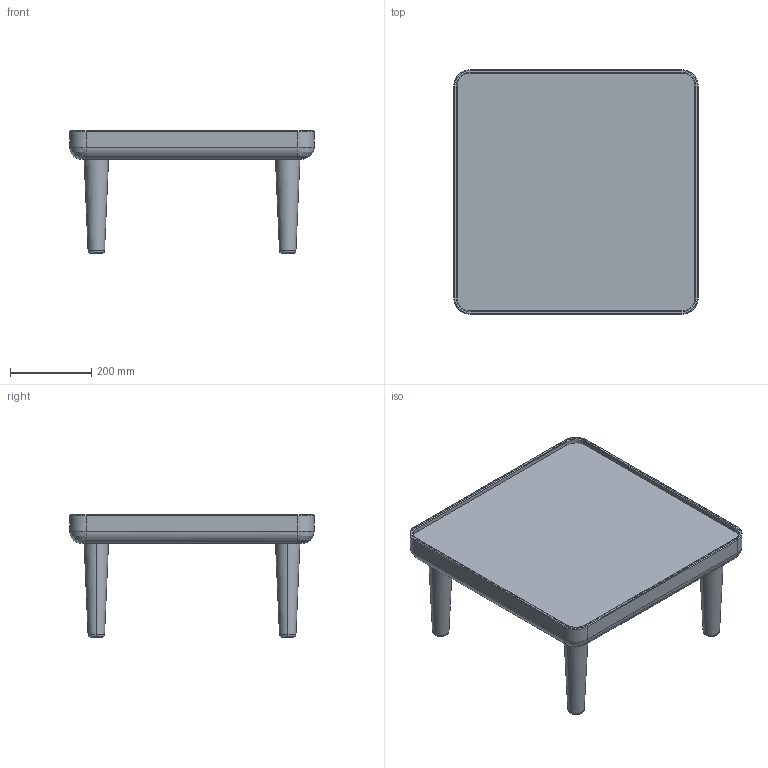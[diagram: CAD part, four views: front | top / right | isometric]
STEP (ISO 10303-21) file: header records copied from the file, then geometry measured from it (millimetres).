
FILE_DESCRIPTION(/* description */ (''),/* implementation_level */ '2;1');
FILE_NAME(/* name */ 'KIDF44~1',/* time_stamp */ '2019-05-27T17:39:39+09:00',/* author */ (''),/* organization */ (''),/* preprocessor_version */ 'ST-DEVELOPER v15',/* originating_system */ '',/* authorisation */ '');
FILE_SCHEMA (('AUTOMOTIVE_DESIGN'));
Length unit declared in the file: millimetre
Products named in the file (1): Document
Bounding box: 600 x 600 x 300 mm (x, y, z)
Volume: 22402861.3 mm3; surface area: 1033183.6 mm2
Topology: 5 solids, 5 shells, 67 faces, 136 edges, 80 vertices
Faces by surface type: bspline 52, plane 15
Entity records: 2986 total; most frequent: CARTESIAN_POINT 2161, ORIENTED_EDGE 272, EDGE_CURVE 136, VERTEX_POINT 80, EDGE_LOOP 68, ADVANCED_FACE 67, FACE_OUTER_BOUND 67, B_SPLINE_CURVE_WITH_KNOTS 44
